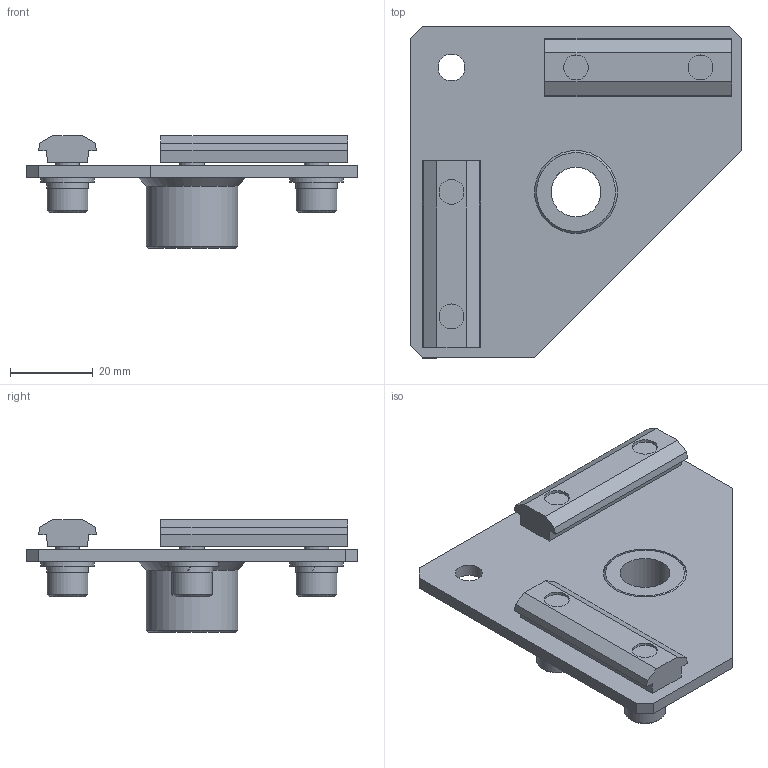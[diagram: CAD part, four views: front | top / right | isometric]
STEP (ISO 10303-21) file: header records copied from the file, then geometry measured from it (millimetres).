
FILE_DESCRIPTION(('STEP AP214'),'1');
FILE_NAME('LP40-M12.stp','2021-12-27T09:43:57',(' '),(' '),'Spatial InterOp 3D',' ',' ');
FILE_SCHEMA(('AUTOMOTIVE_DESIGN { 1 0 10303 214 1 1 1 1 }'));
Length unit declared in the file: millimetre
Products named in the file (15): LP40-M12; NFM6-P30
Assembly tree (15 placements, depth 2):
  LP40-M12
    LP40-M12
    NFM6-P30  x2
    (unnamed)
    (unnamed)
    (unnamed)
    (unnamed)
    (unnamed)
    (unnamed)
    (unnamed)
    (unnamed)
    (unnamed)
    (unnamed)
    (unnamed)
    (unnamed)
Bounding box: 80 x 80 x 27.2 mm (x, y, z)
Volume: 28720 mm3; surface area: 20748.5 mm2
Topology: 15 solids, 15 shells, 143 faces, 302 edges, 199 vertices
Faces by surface type: plane 100, cylinder 32, cone 11
Full cylindrical faces by diameter (mm): 6 x4, 6.5 x9, 9.87 x4, 12 x1, 12.8 x4, 20 x1, 22 x1
Entity records: 4654 total; most frequent: DIRECTION 614, CARTESIAN_POINT 553, ORIENTED_EDGE 466, AXIS2_PLACEMENT_3D 236, EDGE_CURVE 233, EDGE_LOOP 196, VERTEX_POINT 175, FACE_OUTER_BOUND 151
